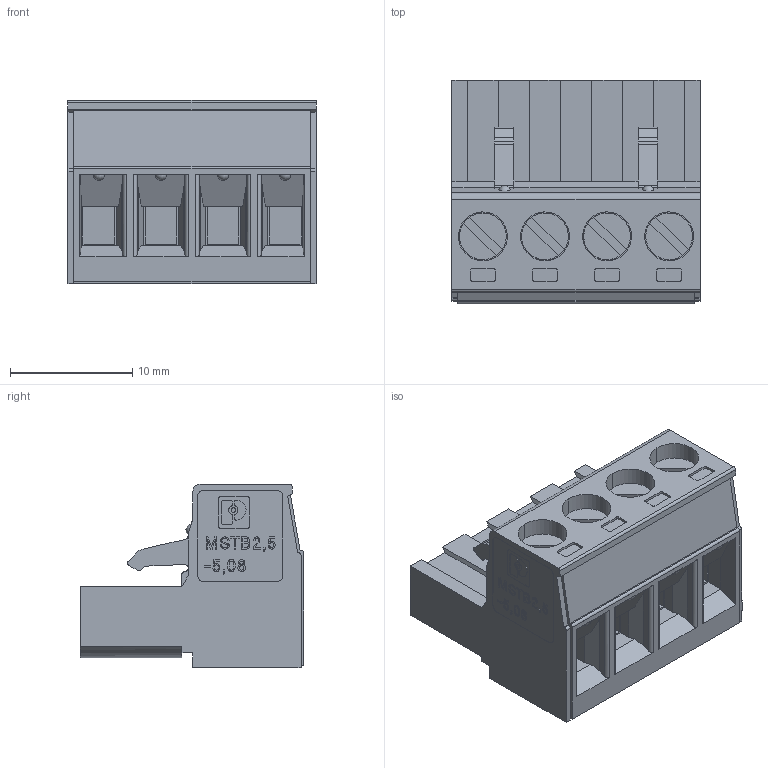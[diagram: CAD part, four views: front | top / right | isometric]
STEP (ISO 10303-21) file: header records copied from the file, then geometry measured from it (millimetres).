
FILE_DESCRIPTION(('STEP AP214'),'1');
FILE_NAME('cctmp_5EE189C0-EF1D-48C3-8BEE-F60E93AE82CE_2023_03_29_10_25_56_0694_3532..stp','2023-03-29T10:25:57',('PHOENIX CONTACT Deutschland GmbH'),('CADClick - www.CADClick.com'),'Spatial InterOp 3D',' ','unknown authorization');
FILE_SCHEMA(('AUTOMOTIVE_DESIGN'));
Length unit declared in the file: millimetre
Products named in the file (14): 2023_03_29_10_25_56_0052; 2023_03_29_10_25_56_0694; 2023_03_29_10_25_56_0679; 2023_03_29_10_25_56_0663; 2023_03_29_10_25_56_0647; 2023_03_29_10_25_56_0632; 2023_03_29_10_25_56_0616; 2023_03_29_10_25_56_0600; 2023_03_29_10_25_56_0585; 2023_03_29_10_25_56_0569; 2023_03_29_10_25_56_0554; 2023_03_29_10_25_56_0538; 2023_03_29_10_25_56_0522; 2023_03_29_10_25_56_0474
Assembly tree (13 placements, depth 2):
  2023_03_29_10_25_56_0052
    2023_03_29_10_25_56_0694
    2023_03_29_10_25_56_0679
    2023_03_29_10_25_56_0663
    2023_03_29_10_25_56_0647
    2023_03_29_10_25_56_0632
    2023_03_29_10_25_56_0616
    2023_03_29_10_25_56_0600
    2023_03_29_10_25_56_0585
    2023_03_29_10_25_56_0569
    2023_03_29_10_25_56_0554
    2023_03_29_10_25_56_0538
    2023_03_29_10_25_56_0522
    2023_03_29_10_25_56_0474
Bounding box: 20.38 x 18.3 x 15 mm (x, y, z)
Volume: 2871.6 mm3; surface area: 4556.5 mm2
Topology: 13 solids, 13 shells, 1070 faces, 2991 edges, 1990 vertices
Faces by surface type: plane 834, cylinder 222, cone 8, sphere 6
Entity records: 64121 total; most frequent: CARTESIAN_POINT 6641, ORIENTED_EDGE 5982, DIRECTION 5699, STYLED_ITEM 5158, PRESENTATION_STYLE_ASSIGNMENT 5158, COLOUR_RGB 5158, EDGE_CURVE 2991, CURVE_STYLE 2537
